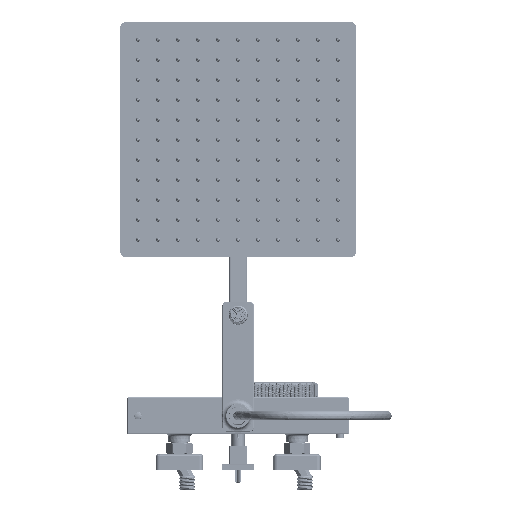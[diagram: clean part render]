
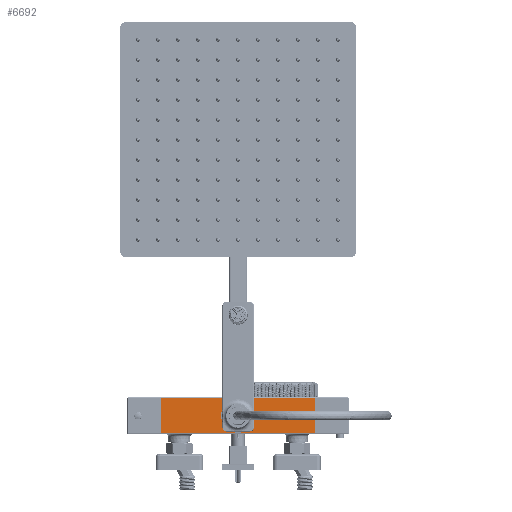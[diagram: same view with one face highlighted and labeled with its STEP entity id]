
A CAD part, front view. The second image highlights one B-rep face of the part: STEP entity #6692.
In plain terms, the highlighted planar face has unit normal (0, -1, 0).
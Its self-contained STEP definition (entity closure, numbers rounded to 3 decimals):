
#100=DIRECTION('',(1.,0.,0.));
#101=VECTOR('',#100,196.);
#102=CARTESIAN_POINT('',(-98.,-23.5,-22.5));
#103=LINE('',#102,#101);
#152=DIRECTION('',(-1.,0.,0.));
#153=VECTOR('',#152,196.);
#154=CARTESIAN_POINT('',(98.,-23.5,22.5));
#155=LINE('',#154,#153);
#184=DIRECTION('',(0.,0.,1.));
#185=VECTOR('',#184,45.);
#186=CARTESIAN_POINT('',(98.,-23.5,-22.5));
#187=LINE('',#186,#185);
#1464=DIRECTION('',(0.,0.,1.));
#1465=VECTOR('',#1464,45.);
#1466=CARTESIAN_POINT('',(-98.,-23.5,-22.5));
#1467=LINE('',#1466,#1465);
#1468=CARTESIAN_POINT('',(0.,-23.5,0.));
#1469=DIRECTION('',(0.,-1.,0.));
#1470=DIRECTION('',(-1.,0.,0.));
#1471=AXIS2_PLACEMENT_3D('',#1468,#1469,#1470);
#1473=CARTESIAN_POINT('',(0.,-23.5,0.));
#1474=DIRECTION('',(0.,-1.,0.));
#1475=DIRECTION('',(1.,0.,-0.024));
#1476=AXIS2_PLACEMENT_3D('',#1473,#1474,#1475);
#1478=CARTESIAN_POINT('',(0.,-23.5,0.));
#1479=DIRECTION('',(0.,-1.,0.));
#1480=DIRECTION('',(1.,0.,0.));
#1481=AXIS2_PLACEMENT_3D('',#1478,#1479,#1480);
#1483=CARTESIAN_POINT('',(0.,-23.5,0.));
#1484=DIRECTION('',(0.,-1.,0.));
#1485=DIRECTION('',(-1.,0.,0.024));
#1486=AXIS2_PLACEMENT_3D('',#1483,#1484,#1485);
#3876=CARTESIAN_POINT('',(-98.,-23.5,-22.5));
#3877=VERTEX_POINT('',#3876);
#3878=CARTESIAN_POINT('',(98.,-23.5,-22.5));
#3879=VERTEX_POINT('',#3878);
#3881=CARTESIAN_POINT('',(-98.,-23.5,22.5));
#3883=VERTEX_POINT('',#3881);
#3898=CARTESIAN_POINT('',(98.,-23.5,22.5));
#3900=VERTEX_POINT('',#3898);
#4481=CARTESIAN_POINT('',(21.744,-23.5,-0.524));
#4482=CARTESIAN_POINT('',(21.75,-23.5,0.));
#4483=VERTEX_POINT('',#4481);
#4484=VERTEX_POINT('',#4482);
#4485=CARTESIAN_POINT('',(-21.75,-23.5,0.));
#4486=VERTEX_POINT('',#4485);
#4487=CARTESIAN_POINT('',(-21.744,-23.5,0.524));
#4488=VERTEX_POINT('',#4487);
#6673=CARTESIAN_POINT('',(-98.,-23.5,-23.5));
#6674=DIRECTION('',(0.,-1.,0.));
#6675=DIRECTION('',(1.,0.,0.));
#6676=AXIS2_PLACEMENT_3D('',#6673,#6674,#6675);
#6677=PLANE('',#6676);
#6678=ORIENTED_EDGE('',*,*,#5062,.F.);
#6679=ORIENTED_EDGE('',*,*,#5086,.F.);
#6680=ORIENTED_EDGE('',*,*,#5015,.F.);
#6681=ORIENTED_EDGE('',*,*,#5030,.T.);
#6682=EDGE_LOOP('',(#6678,#6679,#6680,#6681));
#6683=FACE_OUTER_BOUND('',#6682,.F.);
#6684=ORIENTED_EDGE('',*,*,#6662,.T.);
#6685=ORIENTED_EDGE('',*,*,#6660,.T.);
#6687=ORIENTED_EDGE('',*,*,#6686,.T.);
#6689=ORIENTED_EDGE('',*,*,#6688,.T.);
#6690=EDGE_LOOP('',(#6684,#6685,#6687,#6689));
#6691=FACE_BOUND('',#6690,.F.);
#1472=CIRCLE('',#1471,21.75);
#1477=CIRCLE('',#1476,21.75);
#1482=CIRCLE('',#1481,21.75);
#1487=CIRCLE('',#1486,21.75);
#5015=EDGE_CURVE('',#3877,#3879,#103,.T.);
#5030=EDGE_CURVE('',#3877,#3883,#1467,.T.);
#5062=EDGE_CURVE('',#3900,#3883,#155,.T.);
#5086=EDGE_CURVE('',#3879,#3900,#187,.T.);
#6660=EDGE_CURVE('',#4483,#4484,#1477,.T.);
#6662=EDGE_CURVE('',#4486,#4483,#1472,.T.);
#6686=EDGE_CURVE('',#4484,#4488,#1482,.T.);
#6688=EDGE_CURVE('',#4488,#4486,#1487,.T.);
#6692=ADVANCED_FACE('',(#6683,#6691),#6677,.T.);
